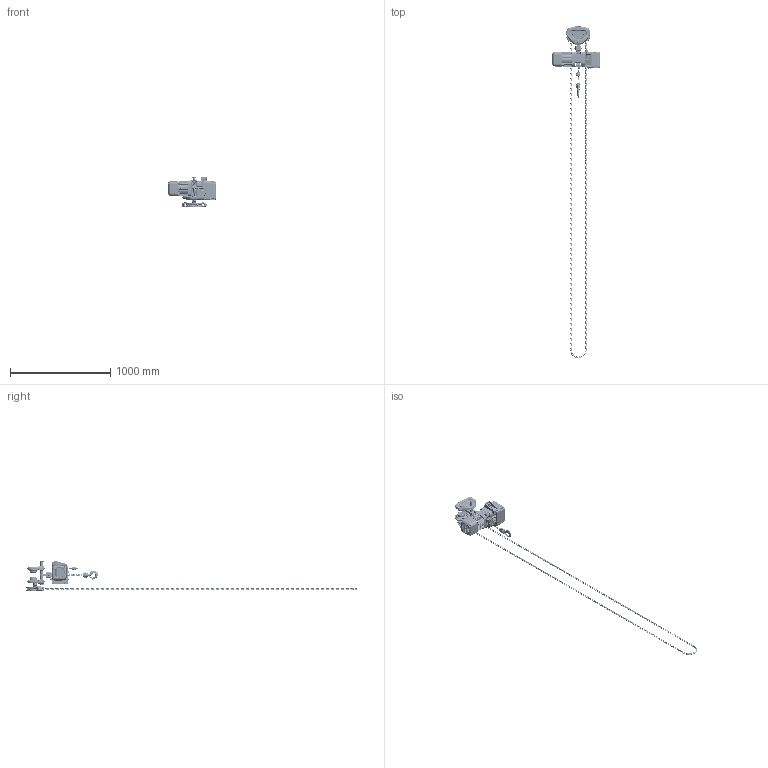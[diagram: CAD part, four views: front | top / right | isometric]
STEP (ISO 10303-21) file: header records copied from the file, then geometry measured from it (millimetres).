
FILE_DESCRIPTION (( 'STEP AP214' ), '1' );
FILE_NAME ('NER2G001H.STEP', '2026-08-11T14:38:53', ( '' ), ( '' ), 'SwSTEP 2.0', 'SolidWorks 2026', '' );
FILE_SCHEMA (( 'AUTOMOTIVE_DESIGN' ));
Length unit declared in the file: millimetre
Products named in the file (79): T6GA0109103; ER2CS9027; E3S112003; T6GA0109102; ES1045003; ER2CS9186; T6GA0109126; Socket Head Cap Screw_AM_B18.3.1M - 6 x 1.0 x 12 Hex SHCS -- 12CHX; 9091234_B18.3.1M - 5 x 0.8 x 45 Hex SHCS -- 22CHX; T6G5111010; ER1BS9135; ER2CS1002; ER2CS9123; T6GA0109112; T6G5121010; ER2BS9337; NER2G001H; ER2BH1011; ER2BHM03S9A31; ES558003; LCER2003NP; LCER2003NP (SHAPED); ER2CS9121; J1NA001-20060_B18.2.4.1M - Hex nut, Style 1,  M6 x 1 --D-C; T6GA0109111; ER2BS9338; 9091252_B18.3.1M - 6 x 1.0 x 30 Hex SHCS -- 30CHX; ER2BS9101; T6GA0109113; ER2BHM01H9A6; T7G115010; T6G5112010; M6F554010; ER2BS9331; GTF2010_STANDARD SUSPENSION SHAFT (2.28" ~ 5.00"); T6G123010; J1BY9-0602525_B18.2.3.1M - Hex cap screw, M6 x 1.0 x 25 --25C; L3183008_CASTLENUT_J1NL001-10100; ER2CS9511; 6302Z BEARING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
Assembly tree (432 placements, depth 5):
  NER2G001H
    GTF2010_STANDARD SUSPENSION SHAFT (2.28" ~ 5.00")
      T6G5112010
        T6GA0109112
        T6GA0109113
        T6GA0109103  x2
      T6G5111010
        T6GA0109111
        T6GA0109113
        T6GA0109103  x2
        T6GC0109128
      T6G5101010  x2
        T6GA0109102
        6302Z BEARING
      T6G5102010  x2
        T6GA0109101
        6302Z BEARING
      MS104010  x4
      9047115_9047115  x4
      T6G800010G
      T7G115010
      T7G117010
      T6G156010  x2
      9009423_9009423  x3
      T6G5121010
        T6GA0109125
        T6GA0109126
      T6G123010
      L4082090_L4082090
      T7GC121010
      HCCF005 for GT2010
        HCCF005  x270
      HCCF005  x2
    NER2001H_FOR GEARED TROLLEY
      ER2BS9104_ER2BS9104
      ER2BS9103
      ER2BS9101
      ER2BS9105
      ER2BS9107
      9091234_B18.3.1M - 5 x 0.8 x 45 Hex SHCS -- 22CHX  x4
      9091252_B18.3.1M - 6 x 1.0 x 30 Hex SHCS -- 30CHX  x4
      E3S111003  x2
      E3S112003  x2
      ER2CS9121  x2
      ER2CS9186
      ER2CS9123
      Socket Head Cap Screw_AM_B18.3.1M - 6 x 1.0 x 12 Hex SHCS -- 12CHX
      ER2BS9331
      ER2BS9338
      ER2BS9337
      ER2CS9357
      ER2BH1011
        ER2BH9011
        ER2BH2015
          ER2BH9015  x2
          J1BY9-0602525_B18.2.3.1M - Hex cap screw, M6 x 1.0 x 25 --25C  x2
          J1WS011-20060_Rectangular section spring washer BS 4464 - 16 (Type B)  x2
          J1NA001-20060_B18.2.4.1M - Hex nut, Style 1,  M6 x 1 --D-C  x2
        ER2CS1002
      LCER2003NP
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Bounding box: 477.5 x 3319.02 x 309.21 mm (x, y, z)
Volume: 9000881.7 mm3; surface area: 1973646.4 mm2
Topology: 438 solids, 454 shells, 13654 faces, 35126 edges, 22012 vertices
Faces by surface type: cylinder 4744, plane 4590, torus 2797, cone 755, bspline 709, sphere 59
Entity records: 276377 total; most frequent: CARTESIAN_POINT 94348, ORIENTED_EDGE 38856, DIRECTION 34811, EDGE_CURVE 19430, AXIS2_PLACEMENT_3D 13328, VERTEX_POINT 12720, VECTOR 8155, LINE 8155
